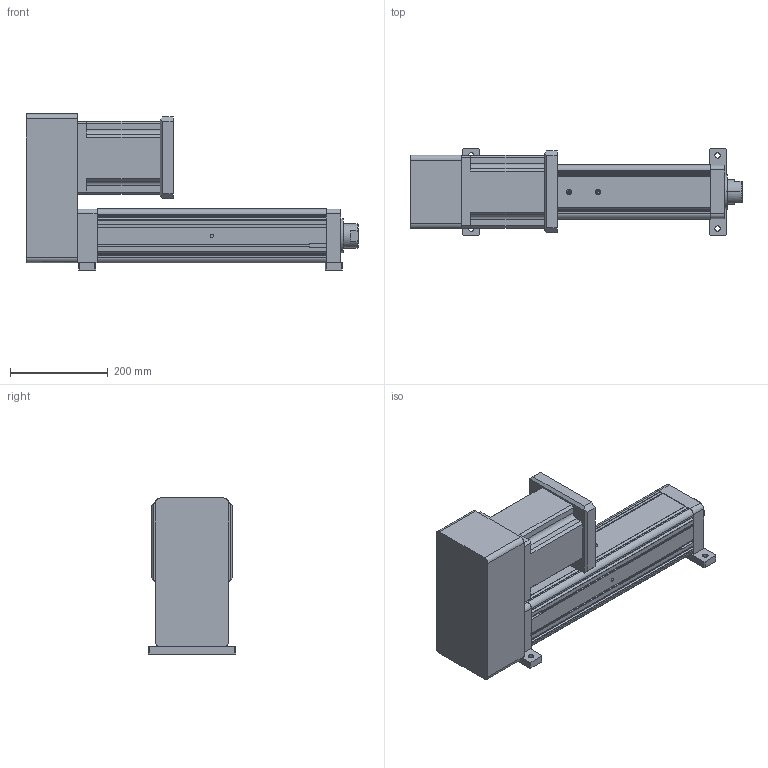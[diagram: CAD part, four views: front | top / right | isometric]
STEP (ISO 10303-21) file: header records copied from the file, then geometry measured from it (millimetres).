
FILE_DESCRIPTION (( 'STEP AP203' ), '1' );
FILE_NAME ('YRJ110-L300-H2K2.STEP', '2020-01-04T06:11:34', ( 'User' ), ( 'China' ), 'SwSTEP 2.0', 'SolidWorks 2016', '' );
FILE_SCHEMA (( 'CONFIG_CONTROL_DESIGN' ));
Length unit declared in the file: millimetre
Products named in the file (7): H2-110-2; YRJ110-L300-H2K2; 095-100俴最倰第; H2-110-1; 萇儂碟-110; K2-110; 142熬厒儂
Assembly tree (6 placements, depth 2):
  YRJ110-L300-H2K2
    095-100俴最倰第
    萇儂碟-110
    142熬厒儂
    H2-110-1
    H2-110-2
    K2-110
Bounding box: 681 x 180 x 320 mm (x, y, z)
Volume: 11894694.7 mm3; surface area: 917289.9 mm2
Topology: 6 solids, 6 shells, 320 faces, 882 edges, 569 vertices
Faces by surface type: plane 183, cylinder 110, cone 27
Entity records: 11146 total; most frequent: CARTESIAN_POINT 2104, DIRECTION 1737, ORIENTED_EDGE 1732, EDGE_CURVE 866, LINE 609, VECTOR 609, VERTEX_POINT 569, AXIS2_PLACEMENT_3D 564
